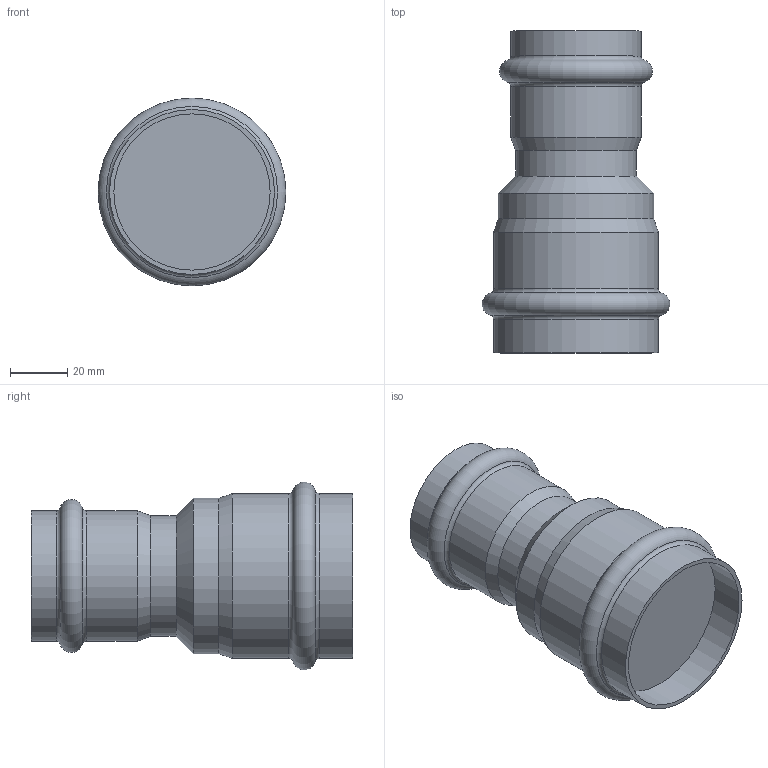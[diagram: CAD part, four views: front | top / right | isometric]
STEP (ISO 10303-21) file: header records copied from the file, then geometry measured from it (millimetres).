
FILE_DESCRIPTION(('STEP AP203'), '1');
FILE_NAME('VTi.903.I.005442', '', ('UNSPECIFIED'), ('UNSPECIFIED'), 'C3D Converter', 'C3D Toolkit', '');
FILE_SCHEMA(('CONFIG_CONTROL_DESIGN'));
Length unit declared in the file: millimetre
Bounding box: 65.38 x 112 x 65.38 mm (x, y, z)
Volume: 199436.1 mm3; surface area: 27274.6 mm2
Topology: 1 solids, 1 shells, 21 faces, 37 edges, 20 vertices
Faces by surface type: cylinder 8, torus 6, plane 4, cone 3
Full cylindrical faces by diameter (mm): 42 x1, 42.3 x1, 45.3 x2, 54 x1, 54.4 x1, 57.4 x2
Entity records: 454 total; most frequent: DIRECTION 84, CARTESIAN_POINT 62, AXIS2_PLACEMENT_3D 42, EDGE_LOOP 40, ORIENTED_EDGE 40, FACE_OUTER_BOUND 34, ADVANCED_FACE 21, EDGE_CURVE 20
